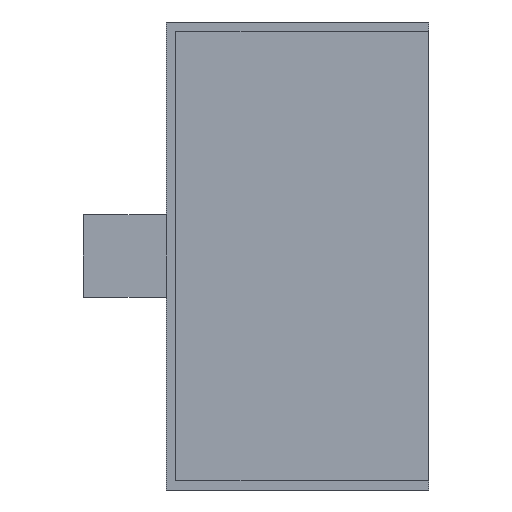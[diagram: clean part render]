
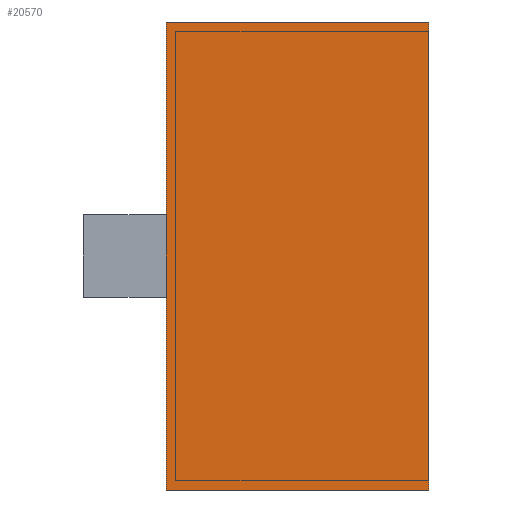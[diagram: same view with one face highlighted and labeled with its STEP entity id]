
A CAD part, left-side view. The second image highlights one B-rep face of the part: STEP entity #20570.
In plain terms, the highlighted planar face has unit normal (-1, 0, 0).
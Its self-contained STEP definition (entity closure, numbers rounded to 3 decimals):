
#1086 = ORIENTED_EDGE ( 'NONE', *, *, #15825, .T. ) ;
#1564 = ORIENTED_EDGE ( 'NONE', *, *, #15120, .F. ) ;
#2410 = VECTOR ( 'NONE', #5211, 1000. ) ;
#2427 = LINE ( 'NONE', #15883, #2410 ) ;
#2767 = DIRECTION ( 'NONE',  ( 0., 0., -1. ) ) ;
#4112 = VECTOR ( 'NONE', #7282, 1000. ) ;
#4219 = LINE ( 'NONE', #16286, #4112 ) ;
#4391 = LINE ( 'NONE', #22450, #4398 ) ;
#4398 = VECTOR ( 'NONE', #9054, 1000. ) ;
#4926 = VECTOR ( 'NONE', #13857, 1000. ) ;
#5018 = LINE ( 'NONE', #19249, #4926 ) ;
#5211 = DIRECTION ( 'NONE',  ( 0., 0., 1. ) ) ;
#6588 = VERTEX_POINT ( 'NONE', #17244 ) ;
#7282 = DIRECTION ( 'NONE',  ( 0., -1., 0. ) ) ;
#8291 = ORIENTED_EDGE ( 'NONE', *, *, #14741, .F. ) ;
#9054 = DIRECTION ( 'NONE',  ( 0., -1., 0. ) ) ;
#9114 = CARTESIAN_POINT ( 'NONE',  ( -65., 0., 37.5 ) ) ;
#10498 = CARTESIAN_POINT ( 'NONE',  ( -65., 42., -37.5 ) ) ;
#11537 = PLANE ( 'NONE',  #16862 ) ;
#12485 = ORIENTED_EDGE ( 'NONE', *, *, #15038, .T. ) ;
#13286 = DIRECTION ( 'NONE',  ( 1., 0., 0. ) ) ;
#13496 = VERTEX_POINT ( 'NONE', #10498 ) ;
#13839 = EDGE_LOOP ( 'NONE', ( #1086, #1564, #8291, #12485 ) ) ;
#13857 = DIRECTION ( 'NONE',  ( 0., 0., 1. ) ) ;
#14741 = EDGE_CURVE ( 'NONE', #13496, #6588, #5018, .T. ) ;
#15038 = EDGE_CURVE ( 'NONE', #13496, #19447, #4391, .T. ) ;
#15120 = EDGE_CURVE ( 'NONE', #6588, #22059, #4219, .T. ) ;
#15825 = EDGE_CURVE ( 'NONE', #19447, #22059, #2427, .T. ) ;
#15883 = CARTESIAN_POINT ( 'NONE',  ( -65., 0., -37.5 ) ) ;
#16286 = CARTESIAN_POINT ( 'NONE',  ( -65., 42., 37.5 ) ) ;
#16817 = CARTESIAN_POINT ( 'NONE',  ( -65., 42., -37.5 ) ) ;
#16862 = AXIS2_PLACEMENT_3D ( 'NONE', #16817, #13286, #2767 ) ;
#17244 = CARTESIAN_POINT ( 'NONE',  ( -65., 42., 37.5 ) ) ;
#19249 = CARTESIAN_POINT ( 'NONE',  ( -65., 42., -37.5 ) ) ;
#19447 = VERTEX_POINT ( 'NONE', #19612 ) ;
#19612 = CARTESIAN_POINT ( 'NONE',  ( -65., 0., -37.5 ) ) ;
#20570 = ADVANCED_FACE ( 'NONE', ( #20641 ), #11537, .F. ) ;
#20641 = FACE_OUTER_BOUND ( 'NONE', #13839, .T. ) ;
#22059 = VERTEX_POINT ( 'NONE', #9114 ) ;
#22450 = CARTESIAN_POINT ( 'NONE',  ( -65., 42., -37.5 ) ) ;
